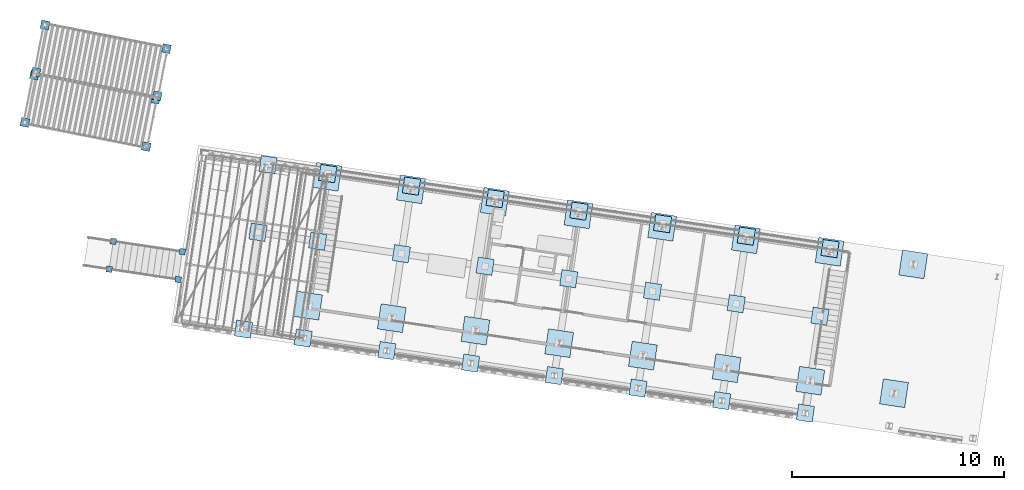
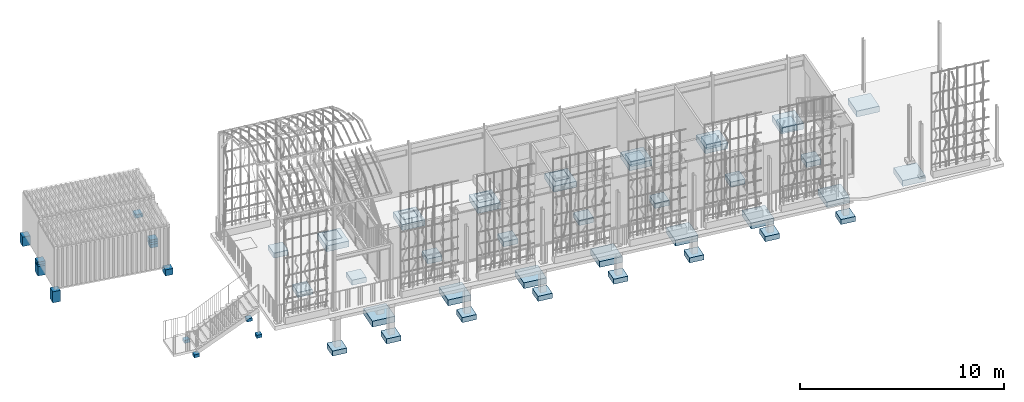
# One storey, part 1 of 142: 52 footings, 4 elements without a shape of their own.
"""IFC4 building model written with IfcOpenShell, lengths in metres."""

from ifc_helpers import new_model, si_unit, direction, frame, origin_with_axes, place, context, subcontext, project, spatial, polyline, outline, extrude, material, element, aggregate, save


model = new_model("IFC4")

# Units and contexts
model_context = context("Model", 3, precision=1e-05, world=origin_with_axes(), true_north=direction((0.0, 1.0)))
body_context = subcontext(model_context, "Body", "Model", "MODEL_VIEW")
ifc_project = project(units=[si_unit("LENGTHUNIT", "METRE"), si_unit("AREAUNIT", "SQUARE_METRE"), si_unit("VOLUMEUNIT", "CUBIC_METRE")], contexts=[model_context])

# Site, building, storey
site_placement = place(None, origin_with_axes())
site = spatial("IfcSite", under=ifc_project, at=site_placement, Name="Lares · Rua das Mercês · artigo 4771")
building_placement = place(site_placement, frame((15.0, 9.7, 14.65), z_axis=(0.0, 0.0, 1.0), x_axis=(0.989015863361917, -0.147809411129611, 0.0)))
building = spatial("IfcBuilding", under=site, at=building_placement, Name="Casa Sobreposta")
storey_placement = place(building_placement, origin_with_axes())
storey = spatial("IfcBuildingStorey", under=building, at=storey_placement, Name="00 · Habitação e estacionamento", Elevation=14.65)

# Footings
ifc_material = material(Name="Betão armado / Stahlbeton", Category="concrete")
footing_1_placement = place(storey_placement, frame((0.0, 0.0, -2.35), z_axis=(0.0, 0.0, 1.0), x_axis=(1.0, 0.0, 0.0)))
element("IfcFooting", 1, at=footing_1_placement, inside=storey, material=ifc_material, Name="Sapata 1A · hipótese", PredefinedType="PAD_FOOTING", context=body_context, shape_type="SweptSolid", body=[
    extrude(outline(polyline([(0.6, -0.48), (0.6, 0.72), (-0.6, 0.72), (-0.6, -0.48), (0.6, -0.48)])), origin_with_axes(), (0.0, 0.0, 1.0), 0.35),
])
footing_2_placement = place(storey_placement, frame((0.0, 0.0, -1.85), z_axis=(0.0, 0.0, 1.0), x_axis=(1.0, 0.0, 0.0)))
element("IfcFooting", 2, at=footing_2_placement, inside=storey, material=ifc_material, Name="Sapata 1B · hipótese", PredefinedType="PAD_FOOTING", context=body_context, shape_type="SweptSolid", body=[
    extrude(outline(polyline([(0.6, 5.68), (0.6, 6.88), (-0.6, 6.88), (-0.6, 5.68), (0.6, 5.68)])), origin_with_axes(), (0.0, 0.0, 1.0), 0.35),
])
footing_3_placement = place(storey_placement, frame((0.0, 0.0, -2.1), z_axis=(0.0, 0.0, 1.0), x_axis=(1.0, 0.0, 0.0)))
element("IfcFooting", 3, at=footing_3_placement, inside=storey, material=ifc_material, Name="Sapata 2A · hipótese", PredefinedType="PAD_FOOTING", context=body_context, shape_type="SweptSolid", body=[
    extrude(outline(polyline([(4.6, -0.48), (4.6, 0.72), (3.4, 0.72), (3.4, -0.48), (4.6, -0.48)])), origin_with_axes(), (0.0, 0.0, 1.0), 0.35),
])
footing_4_placement = place(storey_placement, frame((0.0, 0.0, -1.6), z_axis=(0.0, 0.0, 1.0), x_axis=(1.0, 0.0, 0.0)))
element("IfcFooting", 4, at=footing_4_placement, inside=storey, material=ifc_material, Name="Sapata 2B · hipótese", PredefinedType="PAD_FOOTING", context=body_context, shape_type="SweptSolid", body=[
    extrude(outline(polyline([(4.6, 5.68), (4.6, 6.88), (3.4, 6.88), (3.4, 5.68), (4.6, 5.68)])), origin_with_axes(), (0.0, 0.0, 1.0), 0.35),
])
footing_5_placement = place(storey_placement, frame((0.0, 0.0, -2.1), z_axis=(0.0, 0.0, 1.0), x_axis=(1.0, 0.0, 0.0)))
element("IfcFooting", 5, at=footing_5_placement, inside=storey, material=ifc_material, Name="Sapata 3A · hipótese", PredefinedType="PAD_FOOTING", context=body_context, shape_type="SweptSolid", body=[
    extrude(outline(polyline([(8.6, -0.48), (8.6, 0.72), (7.4, 0.72), (7.4, -0.48), (8.6, -0.48)])), origin_with_axes(), (0.0, 0.0, 1.0), 0.35),
])
footing_6_placement = place(storey_placement, frame((0.0, 0.0, -1.6), z_axis=(0.0, 0.0, 1.0), x_axis=(1.0, 0.0, 0.0)))
element("IfcFooting", 6, at=footing_6_placement, inside=storey, material=ifc_material, Name="Sapata 3B · hipótese", PredefinedType="PAD_FOOTING", context=body_context, shape_type="SweptSolid", body=[
    extrude(outline(polyline([(8.6, 5.68), (8.6, 6.88), (7.4, 6.88), (7.4, 5.68), (8.6, 5.68)])), origin_with_axes(), (0.0, 0.0, 1.0), 0.35),
])
footing_7_placement = place(storey_placement, frame((0.0, 0.0, -1.85), z_axis=(0.0, 0.0, 1.0), x_axis=(1.0, 0.0, 0.0)))
element("IfcFooting", 7, at=footing_7_placement, inside=storey, material=ifc_material, Name="Sapata 4A · hipótese", PredefinedType="PAD_FOOTING", context=body_context, shape_type="SweptSolid", body=[
    extrude(outline(polyline([(12.6, -0.48), (12.6, 0.72), (11.4, 0.72), (11.4, -0.48), (12.6, -0.48)])), origin_with_axes(), (0.0, 0.0, 1.0), 0.35),
])
footing_8_placement = place(storey_placement, frame((0.0, 0.0, -1.35), z_axis=(0.0, 0.0, 1.0), x_axis=(1.0, 0.0, 0.0)))
element("IfcFooting", 8, at=footing_8_placement, inside=storey, material=ifc_material, Name="Sapata 4B · hipótese", PredefinedType="PAD_FOOTING", context=body_context, shape_type="SweptSolid", body=[
    extrude(outline(polyline([(12.6, 5.68), (12.6, 6.88), (11.4, 6.88), (11.4, 5.68), (12.6, 5.68)])), origin_with_axes(), (0.0, 0.0, 1.0), 0.35),
])
footing_9_placement = place(storey_placement, frame((0.0, 0.0, -1.6), z_axis=(0.0, 0.0, 1.0), x_axis=(1.0, 0.0, 0.0)))
element("IfcFooting", 9, at=footing_9_placement, inside=storey, material=ifc_material, Name="Sapata 5A · hipótese", PredefinedType="PAD_FOOTING", context=body_context, shape_type="SweptSolid", body=[
    extrude(outline(polyline([(16.6, -0.48), (16.6, 0.72), (15.4, 0.72), (15.4, -0.48), (16.6, -0.48)])), origin_with_axes(), (0.0, 0.0, 1.0), 0.35),
])
footing_10_placement = place(storey_placement, frame((0.0, 0.0, -1.1), z_axis=(0.0, 0.0, 1.0), x_axis=(1.0, 0.0, 0.0)))
element("IfcFooting", 10, at=footing_10_placement, inside=storey, material=ifc_material, Name="Sapata 5B · hipótese", PredefinedType="PAD_FOOTING", context=body_context, shape_type="SweptSolid", body=[
    extrude(outline(polyline([(16.6, 5.68), (16.6, 6.88), (15.4, 6.88), (15.4, 5.68), (16.6, 5.68)])), origin_with_axes(), (0.0, 0.0, 1.0), 0.35),
])
footing_11_placement = place(storey_placement, frame((0.0, 0.0, -1.6), z_axis=(0.0, 0.0, 1.0), x_axis=(1.0, 0.0, 0.0)))
element("IfcFooting", 11, at=footing_11_placement, inside=storey, material=ifc_material, Name="Sapata 6A · hipótese", PredefinedType="PAD_FOOTING", context=body_context, shape_type="SweptSolid", body=[
    extrude(outline(polyline([(20.6, -0.48), (20.6, 0.72), (19.4, 0.72), (19.4, -0.48), (20.6, -0.48)])), origin_with_axes(), (0.0, 0.0, 1.0), 0.35),
])
footing_12_placement = place(storey_placement, frame((0.0, 0.0, -1.1), z_axis=(0.0, 0.0, 1.0), x_axis=(1.0, 0.0, 0.0)))
element("IfcFooting", 12, at=footing_12_placement, inside=storey, material=ifc_material, Name="Sapata 6B · hipótese", PredefinedType="PAD_FOOTING", context=body_context, shape_type="SweptSolid", body=[
    extrude(outline(polyline([(20.6, 5.68), (20.6, 6.88), (19.4, 6.88), (19.4, 5.68), (20.6, 5.68)])), origin_with_axes(), (0.0, 0.0, 1.0), 0.35),
])
footing_13_placement = place(storey_placement, frame((0.0, 0.0, -1.35), z_axis=(0.0, 0.0, 1.0), x_axis=(1.0, 0.0, 0.0)))
element("IfcFooting", 13, at=footing_13_placement, inside=storey, material=ifc_material, Name="Sapata 7A · hipótese", PredefinedType="PAD_FOOTING", context=body_context, shape_type="SweptSolid", body=[
    extrude(outline(polyline([(24.6, -0.48), (24.6, 0.72), (23.4, 0.72), (23.4, -0.48), (24.6, -0.48)])), origin_with_axes(), (0.0, 0.0, 1.0), 0.35),
])
footing_14_placement = place(storey_placement, frame((0.0, 0.0, -0.95), z_axis=(0.0, 0.0, 1.0), x_axis=(1.0, 0.0, 0.0)))
element("IfcFooting", 14, at=footing_14_placement, inside=storey, material=ifc_material, Name="Sapata 7B · hipótese", PredefinedType="PAD_FOOTING", context=body_context, shape_type="SweptSolid", body=[
    extrude(outline(polyline([(24.6, 5.68), (24.6, 6.88), (23.4, 6.88), (23.4, 5.68), (24.6, 5.68)])), origin_with_axes(), (0.0, 0.0, 1.0), 0.35),
])
footing_15_placement = place(storey_placement, frame((0.0, 0.0, -1.1), z_axis=(0.0, 0.0, 1.0), x_axis=(1.0, 0.0, 0.0)))
element("IfcFooting", 15, at=footing_15_placement, inside=storey, material=ifc_material, Name="Sapata 8A · hipótese", PredefinedType="PAD_FOOTING", context=body_context, shape_type="SweptSolid", body=[
    extrude(outline(polyline([(28.6, -0.48), (28.6, 0.72), (27.4, 0.72), (27.4, -0.48), (28.6, -0.48)])), origin_with_axes(), (0.0, 0.0, 1.0), 0.35),
])
footing_16_placement = place(storey_placement, frame((0.0, 0.0, -0.95), z_axis=(0.0, 0.0, 1.0), x_axis=(1.0, 0.0, 0.0)))
element("IfcFooting", 16, at=footing_16_placement, inside=storey, material=ifc_material, Name="Sapata 8B · hipótese", PredefinedType="PAD_FOOTING", context=body_context, shape_type="SweptSolid", body=[
    extrude(outline(polyline([(28.6, 5.68), (28.6, 6.88), (27.4, 6.88), (27.4, 5.68), (28.6, 5.68)])), origin_with_axes(), (0.0, 0.0, 1.0), 0.35),
])

# Stair, footings
stair_placement = place(storey_placement, origin_with_axes())
stair = element("IfcStair", 17, at=stair_placement, inside=storey, Name="Jardim · escada pela fachada poente", PredefinedType="STRAIGHT_RUN_STAIR")
footing_17_placement = place(stair_placement, frame((0.0, 0.0, -2.04767746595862), z_axis=(0.0, 0.0, 1.0), x_axis=(1.0, 0.0, 0.0)))
footing_17 = element("IfcFooting", 18, at=footing_17_placement, material=ifc_material, Name="Jardim · apoio", PredefinedType="PAD_FOOTING", context=body_context, shape_type="SweptSolid", body=[
    extrude(outline(polyline([(-6.11, 0.295), (-6.11, 0.575), (-6.39, 0.575), (-6.39, 0.295), (-6.11, 0.295)])), origin_with_axes(), (0.0, 0.0, 1.0), 0.18),
])
footing_18_placement = place(stair_placement, frame((0.0, 0.0, -2.37), z_axis=(0.0, 0.0, 1.0), x_axis=(1.0, 0.0, 0.0)))
footing_18 = element("IfcFooting", 19, at=footing_18_placement, material=ifc_material, Name="Jardim · apoio", PredefinedType="PAD_FOOTING", context=body_context, shape_type="SweptSolid", body=[
    extrude(outline(polyline([(-9.41, 0.295), (-9.41, 0.575), (-9.69, 0.575), (-9.69, 0.295), (-9.41, 0.295)])), origin_with_axes(), (0.0, 0.0, 1.0), 0.18),
])
footing_19_placement = place(stair_placement, frame((0.0, 0.0, -1.93553574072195), z_axis=(0.0, 0.0, 1.0), x_axis=(1.0, 0.0, 0.0)))
footing_19 = element("IfcFooting", 20, at=footing_19_placement, material=ifc_material, Name="Jardim · apoio", PredefinedType="PAD_FOOTING", context=body_context, shape_type="SweptSolid", body=[
    extrude(outline(polyline([(-6.11, 1.625), (-6.11, 1.905), (-6.39, 1.905), (-6.39, 1.625), (-6.11, 1.625)])), origin_with_axes(), (0.0, 0.0, 1.0), 0.18),
])
footing_20_placement = place(stair_placement, frame((0.0, 0.0, -2.37), z_axis=(0.0, 0.0, 1.0), x_axis=(1.0, 0.0, 0.0)))
footing_20 = element("IfcFooting", 21, at=footing_20_placement, material=ifc_material, Name="Jardim · apoio", PredefinedType="PAD_FOOTING", context=body_context, shape_type="SweptSolid", body=[
    extrude(outline(polyline([(-9.41, 1.625), (-9.41, 1.905), (-9.69, 1.905), (-9.69, 1.625), (-9.41, 1.625)])), origin_with_axes(), (0.0, 0.0, 1.0), 0.18),
])
aggregate(stair, [footing_17, footing_18, footing_19, footing_20])

# Assembly, footings
assembly_1_placement = place(storey_placement, origin_with_axes())
assembly_1 = element("IfcElementAssembly", 22, at=assembly_1_placement, inside=storey, Name="Pódio · terraço, casa térrea e cisterna", ObjectType="CISTERN_PODIUM", PredefinedType="USERDEFINED")
footing_21_placement = place(assembly_1_placement, frame((0.0, 0.0, -2.55), z_axis=(0.0, 0.0, 1.0), x_axis=(1.0, 0.0, 0.0)))
footing_21 = element("IfcFooting", 23, at=footing_21_placement, material=ifc_material, Name="Pódio suspenso · sapata pontual", PredefinedType="PAD_FOOTING", context=body_context, shape_type="SweptSolid", body=[
    extrude(outline(polyline([(-2.47, -1.81), (-2.47, -1.05), (-3.23, -1.05), (-3.23, -1.81), (-2.47, -1.81)])), origin_with_axes(), (0.0, 0.0, 1.0), 0.3),
])
footing_22_placement = place(assembly_1_placement, frame((0.0, 0.0, -2.05), z_axis=(0.0, 0.0, 1.0), x_axis=(1.0, 0.0, 0.0)))
footing_22 = element("IfcFooting", 24, at=footing_22_placement, material=ifc_material, Name="Pódio suspenso · sapata pontual", PredefinedType="PAD_FOOTING", context=body_context, shape_type="SweptSolid", body=[
    extrude(outline(polyline([(-2.47, 2.82), (-2.47, 3.58), (-3.23, 3.58), (-3.23, 2.82), (-2.47, 2.82)])), origin_with_axes(), (0.0, 0.0, 1.0), 0.3),
])
footing_23_placement = place(assembly_1_placement, frame((0.0, 0.0, -1.8), z_axis=(0.0, 0.0, 1.0), x_axis=(1.0, 0.0, 0.0)))
footing_23 = element("IfcFooting", 25, at=footing_23_placement, material=ifc_material, Name="Pódio suspenso · sapata pontual", PredefinedType="PAD_FOOTING", context=body_context, shape_type="SweptSolid", body=[
    extrude(outline(polyline([(-2.47, 6.05), (-2.47, 6.81), (-3.23, 6.81), (-3.23, 6.05), (-2.47, 6.05)])), origin_with_axes(), (0.0, 0.0, 1.0), 0.3),
])
footing_24_placement = place(assembly_1_placement, frame((0.0, 0.0, -2.55), z_axis=(0.0, 0.0, 1.0), x_axis=(1.0, 0.0, 0.0)))
footing_24 = element("IfcFooting", 26, at=footing_24_placement, material=ifc_material, Name="Pódio suspenso · sapata pontual", PredefinedType="PAD_FOOTING", context=body_context, shape_type="SweptSolid", body=[
    extrude(outline(polyline([(0.38, -1.81), (0.38, -1.05), (-0.38, -1.05), (-0.38, -1.81), (0.38, -1.81)])), origin_with_axes(), (0.0, 0.0, 1.0), 0.3),
])
footing_25_placement = place(assembly_1_placement, frame((0.0, 0.0, -2.05), z_axis=(0.0, 0.0, 1.0), x_axis=(1.0, 0.0, 0.0)))
footing_25 = element("IfcFooting", 27, at=footing_25_placement, material=ifc_material, Name="Pódio suspenso · sapata pontual", PredefinedType="PAD_FOOTING", context=body_context, shape_type="SweptSolid", body=[
    extrude(outline(polyline([(0.38, 2.82), (0.38, 3.58), (-0.38, 3.58), (-0.38, 2.82), (0.38, 2.82)])), origin_with_axes(), (0.0, 0.0, 1.0), 0.3),
])
footing_26_placement = place(assembly_1_placement, frame((0.0, 0.0, -1.8), z_axis=(0.0, 0.0, 1.0), x_axis=(1.0, 0.0, 0.0)))
footing_26 = element("IfcFooting", 28, at=footing_26_placement, material=ifc_material, Name="Pódio suspenso · sapata pontual", PredefinedType="PAD_FOOTING", context=body_context, shape_type="SweptSolid", body=[
    extrude(outline(polyline([(0.38, 6.05), (0.38, 6.81), (-0.38, 6.81), (-0.38, 6.05), (0.38, 6.05)])), origin_with_axes(), (0.0, 0.0, 1.0), 0.3),
])
footing_27_placement = place(assembly_1_placement, frame((0.0, 0.0, -2.3), z_axis=(0.0, 0.0, 1.0), x_axis=(1.0, 0.0, 0.0)))
footing_27 = element("IfcFooting", 29, at=footing_27_placement, material=ifc_material, Name="Pódio suspenso · sapata pontual", PredefinedType="PAD_FOOTING", context=body_context, shape_type="SweptSolid", body=[
    extrude(outline(polyline([(4.38, -1.81), (4.38, -1.05), (3.62, -1.05), (3.62, -1.81), (4.38, -1.81)])), origin_with_axes(), (0.0, 0.0, 1.0), 0.3),
])
footing_28_placement = place(assembly_1_placement, frame((0.0, 0.0, -1.8), z_axis=(0.0, 0.0, 1.0), x_axis=(1.0, 0.0, 0.0)))
footing_28 = element("IfcFooting", 30, at=footing_28_placement, material=ifc_material, Name="Pódio suspenso · sapata pontual", PredefinedType="PAD_FOOTING", context=body_context, shape_type="SweptSolid", body=[
    extrude(outline(polyline([(4.38, 2.82), (4.38, 3.58), (3.62, 3.58), (3.62, 2.82), (4.38, 2.82)])), origin_with_axes(), (0.0, 0.0, 1.0), 0.3),
])
footing_29_placement = place(assembly_1_placement, frame((0.0, 0.0, -1.55), z_axis=(0.0, 0.0, 1.0), x_axis=(1.0, 0.0, 0.0)))
footing_29 = element("IfcFooting", 31, at=footing_29_placement, material=ifc_material, Name="Pódio suspenso · sapata pontual", PredefinedType="PAD_FOOTING", context=body_context, shape_type="SweptSolid", body=[
    extrude(outline(polyline([(4.38, 6.05), (4.38, 6.81), (3.62, 6.81), (3.62, 6.05), (4.38, 6.05)])), origin_with_axes(), (0.0, 0.0, 1.0), 0.3),
])
footing_30_placement = place(assembly_1_placement, frame((0.0, 0.0, -2.05), z_axis=(0.0, 0.0, 1.0), x_axis=(1.0, 0.0, 0.0)))
footing_30 = element("IfcFooting", 32, at=footing_30_placement, material=ifc_material, Name="Pódio suspenso · sapata pontual", PredefinedType="PAD_FOOTING", context=body_context, shape_type="SweptSolid", body=[
    extrude(outline(polyline([(8.38, -1.81), (8.38, -1.05), (7.62, -1.05), (7.62, -1.81), (8.38, -1.81)])), origin_with_axes(), (0.0, 0.0, 1.0), 0.3),
])
footing_31_placement = place(assembly_1_placement, frame((0.0, 0.0, -1.8), z_axis=(0.0, 0.0, 1.0), x_axis=(1.0, 0.0, 0.0)))
footing_31 = element("IfcFooting", 33, at=footing_31_placement, material=ifc_material, Name="Pódio suspenso · sapata pontual", PredefinedType="PAD_FOOTING", context=body_context, shape_type="SweptSolid", body=[
    extrude(outline(polyline([(8.38, 2.82), (8.38, 3.58), (7.62, 3.58), (7.62, 2.82), (8.38, 2.82)])), origin_with_axes(), (0.0, 0.0, 1.0), 0.3),
])
footing_32_placement = place(assembly_1_placement, frame((0.0, 0.0, -1.55), z_axis=(0.0, 0.0, 1.0), x_axis=(1.0, 0.0, 0.0)))
footing_32 = element("IfcFooting", 34, at=footing_32_placement, material=ifc_material, Name="Pódio suspenso · sapata pontual", PredefinedType="PAD_FOOTING", context=body_context, shape_type="SweptSolid", body=[
    extrude(outline(polyline([(8.38, 6.05), (8.38, 6.81), (7.62, 6.81), (7.62, 6.05), (8.38, 6.05)])), origin_with_axes(), (0.0, 0.0, 1.0), 0.3),
])
footing_33_placement = place(assembly_1_placement, frame((0.0, 0.0, -2.05), z_axis=(0.0, 0.0, 1.0), x_axis=(1.0, 0.0, 0.0)))
footing_33 = element("IfcFooting", 35, at=footing_33_placement, material=ifc_material, Name="Pódio suspenso · sapata pontual", PredefinedType="PAD_FOOTING", context=body_context, shape_type="SweptSolid", body=[
    extrude(outline(polyline([(12.38, -1.81), (12.38, -1.05), (11.62, -1.05), (11.62, -1.81), (12.38, -1.81)])), origin_with_axes(), (0.0, 0.0, 1.0), 0.3),
])
footing_34_placement = place(assembly_1_placement, frame((0.0, 0.0, -1.55), z_axis=(0.0, 0.0, 1.0), x_axis=(1.0, 0.0, 0.0)))
footing_34 = element("IfcFooting", 36, at=footing_34_placement, material=ifc_material, Name="Pódio suspenso · sapata pontual", PredefinedType="PAD_FOOTING", context=body_context, shape_type="SweptSolid", body=[
    extrude(outline(polyline([(12.38, 2.82), (12.38, 3.58), (11.62, 3.58), (11.62, 2.82), (12.38, 2.82)])), origin_with_axes(), (0.0, 0.0, 1.0), 0.3),
])
footing_35_placement = place(assembly_1_placement, frame((0.0, 0.0, -1.3), z_axis=(0.0, 0.0, 1.0), x_axis=(1.0, 0.0, 0.0)))
footing_35 = element("IfcFooting", 37, at=footing_35_placement, material=ifc_material, Name="Pódio suspenso · sapata pontual", PredefinedType="PAD_FOOTING", context=body_context, shape_type="SweptSolid", body=[
    extrude(outline(polyline([(12.38, 6.05), (12.38, 6.81), (11.62, 6.81), (11.62, 6.05), (12.38, 6.05)])), origin_with_axes(), (0.0, 0.0, 1.0), 0.3),
])
footing_36_placement = place(assembly_1_placement, frame((0.0, 0.0, -1.8), z_axis=(0.0, 0.0, 1.0), x_axis=(1.0, 0.0, 0.0)))
footing_36 = element("IfcFooting", 38, at=footing_36_placement, material=ifc_material, Name="Pódio suspenso · sapata pontual", PredefinedType="PAD_FOOTING", context=body_context, shape_type="SweptSolid", body=[
    extrude(outline(polyline([(16.38, -1.81), (16.38, -1.05), (15.62, -1.05), (15.62, -1.81), (16.38, -1.81)])), origin_with_axes(), (0.0, 0.0, 1.0), 0.3),
])
footing_37_placement = place(assembly_1_placement, frame((0.0, 0.0, -1.55), z_axis=(0.0, 0.0, 1.0), x_axis=(1.0, 0.0, 0.0)))
footing_37 = element("IfcFooting", 39, at=footing_37_placement, material=ifc_material, Name="Pódio suspenso · sapata pontual", PredefinedType="PAD_FOOTING", context=body_context, shape_type="SweptSolid", body=[
    extrude(outline(polyline([(16.38, 2.82), (16.38, 3.58), (15.62, 3.58), (15.62, 2.82), (16.38, 2.82)])), origin_with_axes(), (0.0, 0.0, 1.0), 0.3),
])
footing_38_placement = place(assembly_1_placement, frame((0.0, 0.0, -1.15), z_axis=(0.0, 0.0, 1.0), x_axis=(1.0, 0.0, 0.0)))
footing_38 = element("IfcFooting", 40, at=footing_38_placement, material=ifc_material, Name="Pódio suspenso · sapata pontual", PredefinedType="PAD_FOOTING", context=body_context, shape_type="SweptSolid", body=[
    extrude(outline(polyline([(16.38, 6.05), (16.38, 6.81), (15.62, 6.81), (15.62, 6.05), (16.38, 6.05)])), origin_with_axes(), (0.0, 0.0, 1.0), 0.3),
])
footing_39_placement = place(assembly_1_placement, frame((0.0, 0.0, -1.55), z_axis=(0.0, 0.0, 1.0), x_axis=(1.0, 0.0, 0.0)))
footing_39 = element("IfcFooting", 41, at=footing_39_placement, material=ifc_material, Name="Pódio suspenso · sapata pontual", PredefinedType="PAD_FOOTING", context=body_context, shape_type="SweptSolid", body=[
    extrude(outline(polyline([(20.38, -1.81), (20.38, -1.05), (19.62, -1.05), (19.62, -1.81), (20.38, -1.81)])), origin_with_axes(), (0.0, 0.0, 1.0), 0.3),
])
footing_40_placement = place(assembly_1_placement, frame((0.0, 0.0, -1.3), z_axis=(0.0, 0.0, 1.0), x_axis=(1.0, 0.0, 0.0)))
footing_40 = element("IfcFooting", 42, at=footing_40_placement, material=ifc_material, Name="Pódio suspenso · sapata pontual", PredefinedType="PAD_FOOTING", context=body_context, shape_type="SweptSolid", body=[
    extrude(outline(polyline([(20.38, 2.82), (20.38, 3.58), (19.62, 3.58), (19.62, 2.82), (20.38, 2.82)])), origin_with_axes(), (0.0, 0.0, 1.0), 0.3),
])
footing_41_placement = place(assembly_1_placement, frame((0.0, 0.0, -1.15), z_axis=(0.0, 0.0, 1.0), x_axis=(1.0, 0.0, 0.0)))
footing_41 = element("IfcFooting", 43, at=footing_41_placement, material=ifc_material, Name="Pódio suspenso · sapata pontual", PredefinedType="PAD_FOOTING", context=body_context, shape_type="SweptSolid", body=[
    extrude(outline(polyline([(20.38, 6.05), (20.38, 6.81), (19.62, 6.81), (19.62, 6.05), (20.38, 6.05)])), origin_with_axes(), (0.0, 0.0, 1.0), 0.3),
])
footing_42_placement = place(assembly_1_placement, frame((0.0, 0.0, -1.55), z_axis=(0.0, 0.0, 1.0), x_axis=(1.0, 0.0, 0.0)))
footing_42 = element("IfcFooting", 44, at=footing_42_placement, material=ifc_material, Name="Pódio suspenso · sapata pontual", PredefinedType="PAD_FOOTING", context=body_context, shape_type="SweptSolid", body=[
    extrude(outline(polyline([(24.38, -1.81), (24.38, -1.05), (23.62, -1.05), (23.62, -1.81), (24.38, -1.81)])), origin_with_axes(), (0.0, 0.0, 1.0), 0.3),
])
footing_43_placement = place(assembly_1_placement, frame((0.0, 0.0, -1.15), z_axis=(0.0, 0.0, 1.0), x_axis=(1.0, 0.0, 0.0)))
footing_43 = element("IfcFooting", 45, at=footing_43_placement, material=ifc_material, Name="Pódio suspenso · sapata pontual", PredefinedType="PAD_FOOTING", context=body_context, shape_type="SweptSolid", body=[
    extrude(outline(polyline([(24.38, 2.82), (24.38, 3.58), (23.62, 3.58), (23.62, 2.82), (24.38, 2.82)])), origin_with_axes(), (0.0, 0.0, 1.0), 0.3),
])
footing_44_placement = place(assembly_1_placement, frame((0.0, 0.0, -1.15), z_axis=(0.0, 0.0, 1.0), x_axis=(1.0, 0.0, 0.0)))
footing_44 = element("IfcFooting", 46, at=footing_44_placement, material=ifc_material, Name="Pódio suspenso · sapata pontual", PredefinedType="PAD_FOOTING", context=body_context, shape_type="SweptSolid", body=[
    extrude(outline(polyline([(24.38, 6.05), (24.38, 6.81), (23.62, 6.81), (23.62, 6.05), (24.38, 6.05)])), origin_with_axes(), (0.0, 0.0, 1.0), 0.3),
])
aggregate(assembly_1, [footing_21, footing_22, footing_23, footing_24, footing_25, footing_26, footing_27, footing_28, footing_29, footing_30, footing_31, footing_32, footing_33, footing_34, footing_35, footing_36, footing_37, footing_38, footing_39, footing_40, footing_41, footing_42, footing_43, footing_44])

assembly_2_placement = place(storey_placement, frame((-14.4335953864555, 9.04888612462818, 0.0), z_axis=(0.0, 0.0, 1.0), x_axis=(0.999032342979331, -0.0439815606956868, 0.0)))
assembly_2 = element("IfcElementAssembly", 47, at=assembly_2_placement, inside=storey, Name="Contentor existente 1 · 6 m", ObjectType="EXISTING_SHIPPING_CONTAINER", PredefinedType="USERDEFINED")
footing_45_placement = place(assembly_2_placement, frame((0.0, 0.0, -1.72368011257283), z_axis=(0.0, 0.0, 1.0), x_axis=(1.0, 0.0, 0.0)))
footing_45 = element("IfcFooting", 48, at=footing_45_placement, material=ifc_material, Name="Contentor · apoio existente indicativo", PredefinedType="PAD_FOOTING", context=body_context, shape_type="SweptSolid", body=[
    extrude(outline(polyline([(0.28, -0.12), (0.28, 0.28), (-0.12, 0.28), (-0.12, -0.12), (0.28, -0.12)])), origin_with_axes(), (0.0, 0.0, 1.0), 0.710538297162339),
])
footing_46_placement = place(assembly_2_placement, frame((0.0, 0.0, -1.5812660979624), z_axis=(0.0, 0.0, 1.0), x_axis=(1.0, 0.0, 0.0)))
footing_46 = element("IfcFooting", 49, at=footing_46_placement, material=ifc_material, Name="Contentor · apoio existente indicativo", PredefinedType="PAD_FOOTING", context=body_context, shape_type="SweptSolid", body=[
    extrude(outline(polyline([(0.28, 2.16), (0.28, 2.56), (-0.12, 2.56), (-0.12, 2.16), (0.28, 2.16)])), origin_with_axes(), (0.0, 0.0, 1.0), 0.568124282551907),
])
footing_47_placement = place(assembly_2_placement, frame((0.0, 0.0, -1.36548809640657), z_axis=(0.0, 0.0, 1.0), x_axis=(1.0, 0.0, 0.0)))
footing_47 = element("IfcFooting", 50, at=footing_47_placement, material=ifc_material, Name="Contentor · apoio existente indicativo", PredefinedType="PAD_FOOTING", context=body_context, shape_type="SweptSolid", body=[
    extrude(outline(polyline([(6.12, -0.12), (6.12, 0.28), (5.72, 0.28), (5.72, -0.12), (6.12, -0.12)])), origin_with_axes(), (0.0, 0.0, 1.0), 0.352346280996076),
])
footing_48_placement = place(assembly_2_placement, frame((0.0, 0.0, -1.22298332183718), z_axis=(0.0, 0.0, 1.0), x_axis=(1.0, 0.0, 0.0)))
footing_48 = element("IfcFooting", 51, at=footing_48_placement, material=ifc_material, Name="Contentor · apoio existente indicativo", PredefinedType="PAD_FOOTING", context=body_context, shape_type="SweptSolid", body=[
    extrude(outline(polyline([(6.12, 2.16), (6.12, 2.56), (5.72, 2.56), (5.72, 2.16), (6.12, 2.16)])), origin_with_axes(), (0.0, 0.0, 1.0), 0.209841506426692),
])
aggregate(assembly_2, [footing_45, footing_46, footing_47, footing_48])

assembly_3_placement = place(storey_placement, frame((-14.5932944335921, 6.63122214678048, 0.0), z_axis=(0.0, 0.0, 1.0), x_axis=(0.998832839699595, -0.0483007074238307, 0.0)))
assembly_3 = element("IfcElementAssembly", 52, at=assembly_3_placement, inside=storey, Name="Contentor existente 2 · 6 m", ObjectType="EXISTING_SHIPPING_CONTAINER", PredefinedType="USERDEFINED")
footing_49_placement = place(assembly_3_placement, frame((0.0, 0.0, -1.83544963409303), z_axis=(0.0, 0.0, 1.0), x_axis=(1.0, 0.0, 0.0)))
footing_49 = element("IfcFooting", 53, at=footing_49_placement, material=ifc_material, Name="Contentor · apoio existente indicativo", PredefinedType="PAD_FOOTING", context=body_context, shape_type="SweptSolid", body=[
    extrude(outline(polyline([(0.28, -0.12), (0.28, 0.28), (-0.12, 0.28), (-0.12, -0.12), (0.28, -0.12)])), origin_with_axes(), (0.0, 0.0, 1.0), 0.666697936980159),
])
footing_50_placement = place(assembly_3_placement, frame((0.0, 0.0, -1.73526491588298), z_axis=(0.0, 0.0, 1.0), x_axis=(1.0, 0.0, 0.0)))
footing_50 = element("IfcFooting", 54, at=footing_50_placement, material=ifc_material, Name="Contentor · apoio existente indicativo", PredefinedType="PAD_FOOTING", context=body_context, shape_type="SweptSolid", body=[
    extrude(outline(polyline([(0.28, 2.16), (0.28, 2.56), (-0.12, 2.56), (-0.12, 2.16), (0.28, 2.16)])), origin_with_axes(), (0.0, 0.0, 1.0), 0.566513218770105),
])
footing_51_placement = place(assembly_3_placement, frame((0.0, 0.0, -1.53197749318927), z_axis=(0.0, 0.0, 1.0), x_axis=(1.0, 0.0, 0.0)))
footing_51 = element("IfcFooting", 55, at=footing_51_placement, material=ifc_material, Name="Contentor · apoio existente indicativo", PredefinedType="PAD_FOOTING", context=body_context, shape_type="SweptSolid", body=[
    extrude(outline(polyline([(6.12, -0.12), (6.12, 0.28), (5.72, 0.28), (5.72, -0.12), (6.12, -0.12)])), origin_with_axes(), (0.0, 0.0, 1.0), 0.363225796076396),
])
footing_52_placement = place(assembly_3_placement, frame((0.0, 0.0, -1.37859242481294), z_axis=(0.0, 0.0, 1.0), x_axis=(1.0, 0.0, 0.0)))
footing_52 = element("IfcFooting", 56, at=footing_52_placement, material=ifc_material, Name="Contentor · apoio existente indicativo", PredefinedType="PAD_FOOTING", context=body_context, shape_type="SweptSolid", body=[
    extrude(outline(polyline([(6.12, 2.16), (6.12, 2.56), (5.72, 2.56), (5.72, 2.16), (6.12, 2.16)])), origin_with_axes(), (0.0, 0.0, 1.0), 0.209840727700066),
])
aggregate(assembly_3, [footing_49, footing_50, footing_51, footing_52])

save(model, "model.ifc")
